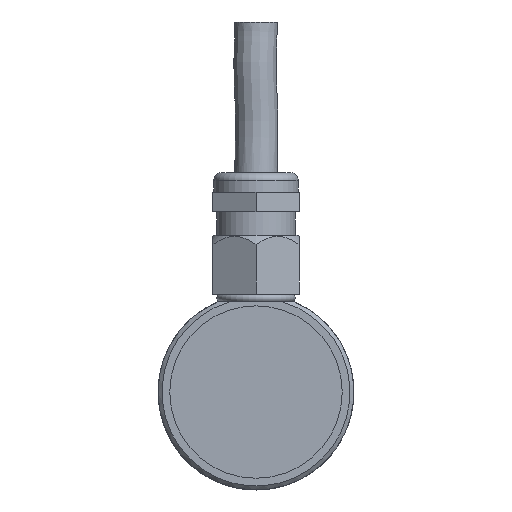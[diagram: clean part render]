
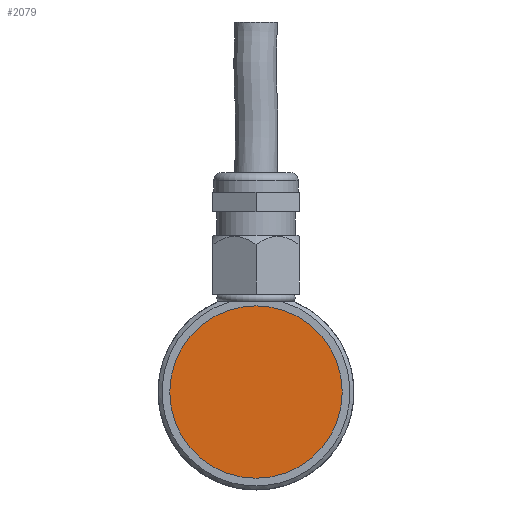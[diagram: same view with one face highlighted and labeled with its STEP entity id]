
A CAD part, left-side view. The second image highlights one B-rep face of the part: STEP entity #2079.
In plain terms, the highlighted planar face has unit normal (-1, 0, 0).
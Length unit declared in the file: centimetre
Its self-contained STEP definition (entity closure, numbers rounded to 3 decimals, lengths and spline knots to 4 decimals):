
#697=PLANE('',#2214);
#1041=VERTEX_POINT('',#4294);
#1124=CIRCLE('',#2212,1.1);
#1292=EDGE_CURVE('',#1041,#1041,#1124,.T.);
#1608=ORIENTED_EDGE('',*,*,#1292,.T.);
#1832=EDGE_LOOP('',(#1608));
#1958=FACE_BOUND('',#1832,.T.);
#2079=ADVANCED_FACE('',(#1958),#697,.T.);
#2212=AXIS2_PLACEMENT_3D('',#4293,#4862,#4863);
#2214=AXIS2_PLACEMENT_3D('',#4297,#4866,$);
#4293=CARTESIAN_POINT('',(0.1,0.,0.));
#4294=CARTESIAN_POINT('',(0.1,0.,1.1));
#4297=CARTESIAN_POINT('',(0.1,0.,0.));
#4862=DIRECTION('',(-1.,0.,0.));
#4863=DIRECTION('',(0.,0.,1.1));
#4866=DIRECTION('',(-1.,0.,0.));
